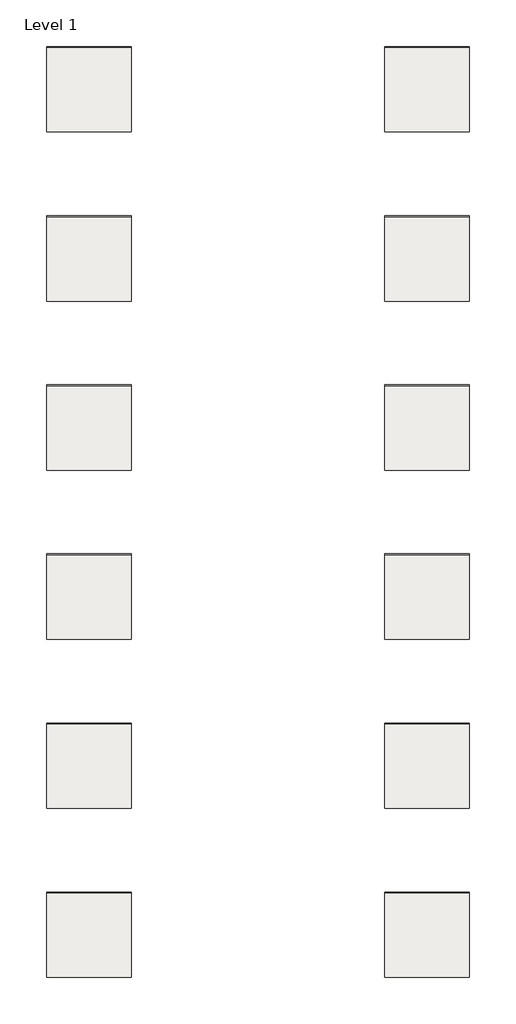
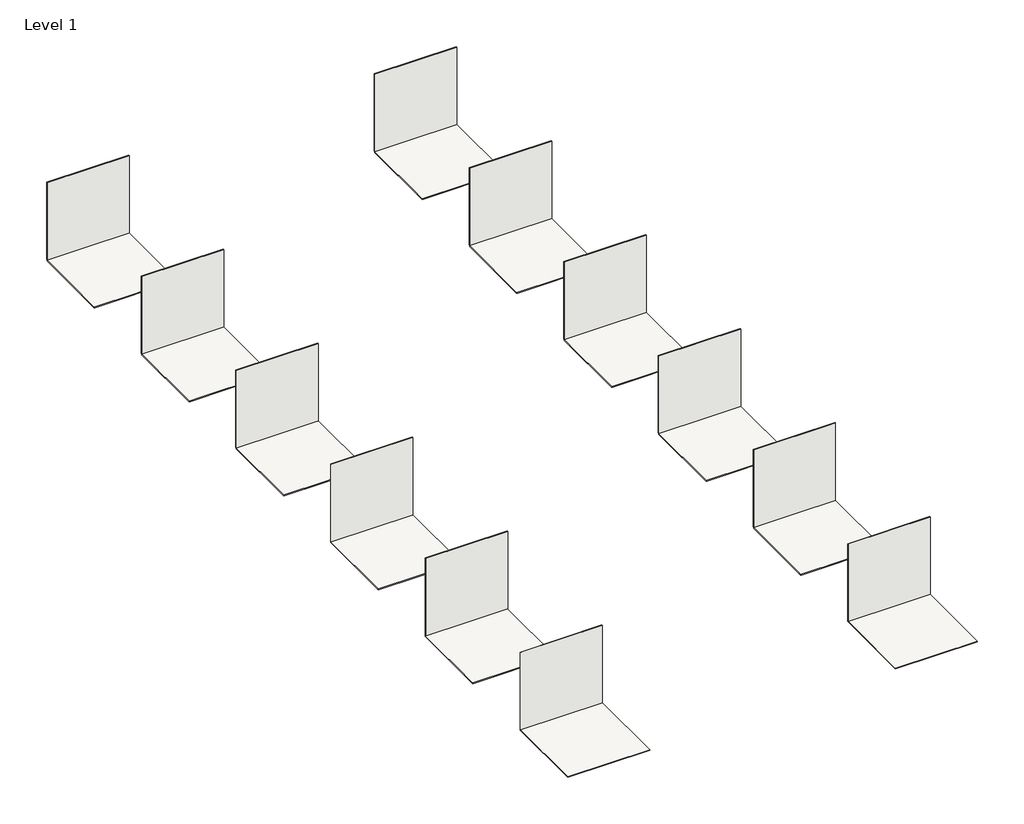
# One storey: 24 coverings.
"""IFC4 building model written with IfcOpenShell, lengths in millimetres."""

from ifc_helpers import new_model, si_unit, frame, origin, origin_with_axes, place, context, project, spatial, polyline, outline, extrude, element, save

model = new_model("IFC4")

# Units and contexts
model_context = context("Model", 3, world=origin())
ifc_project = project(units=[si_unit("LENGTHUNIT", "METRE", prefix="MILLI")], contexts=[model_context])

# Site, building, storey
site = spatial("IfcSite", under=ifc_project)
building = spatial("IfcBuilding", under=site)
storey = spatial("IfcBuildingStorey", under=building, Name="Level 1", Elevation=0.0)

# Coverings
placement = place(None, origin())
element("IfcCovering", 1, ObjectType="REVIGRES-GRIGIO_DAMASCO-BASE-44.35x88.9-POL", at=placement, inside=storey, context=model_context, shape_type="SweptSolid", body=[
    extrude(outline(polyline([(-16268.907908, -497.9865267), (-15268.907908, -497.9865267), (-15268.907908, -508.4865267), (-16268.907908, -508.4865267), (-16268.907908, -497.9865267)])), origin_with_axes(), (0.0, 0.0, 1.0), 1000.0),
])
element("IfcCovering", 2, ObjectType="REVIGRES-GRIGIO_DAMASCO-BASE-44.35x88.9-POL", at=placement, inside=storey, context=model_context, shape_type="SweptSolid", body=[
    extrude(outline(polyline([(-16268.907908, -508.4865267), (-15268.907908, -508.4865267), (-15268.907908, -1508.4865267), (-16268.907908, -1508.4865267), (-16268.907908, -508.4865267)])), frame((0.0, 0.0, -10.5), z_axis=(0.0, 0.0, 1.0), x_axis=(1.0, 0.0, 0.0)), (0.0, 0.0, 1.0), 10.5),
])
element("IfcCovering", 3, ObjectType="REVIGRES-GRIGIO_DAMASCO-BASE-44.35x88.9-MATT_RECT", at=placement, inside=storey, context=model_context, shape_type="SweptSolid", body=[
    extrude(outline(polyline([(-20268.907908, -497.9865267), (-19268.907908, -497.9865267), (-19268.907908, -508.4865267), (-20268.907908, -508.4865267), (-20268.907908, -497.9865267)])), origin_with_axes(), (0.0, 0.0, 1.0), 1000.0),
])
element("IfcCovering", 4, ObjectType="REVIGRES-GRIGIO_DAMASCO-BASE-44.35x88.9-MATT_RECT", at=placement, inside=storey, context=model_context, shape_type="SweptSolid", body=[
    extrude(outline(polyline([(-20268.907908, -508.4865267), (-19268.907908, -508.4865267), (-19268.907908, -1508.4865267), (-20268.907908, -1508.4865267), (-20268.907908, -508.4865267)])), frame((0.0, 0.0, -10.5), z_axis=(0.0, 0.0, 1.0), x_axis=(1.0, 0.0, 0.0)), (0.0, 0.0, 1.0), 10.5),
])
element("IfcCovering", 5, ObjectType="REVIGRES-GRIGIO_DAMASCO-BASE-59.2x59.2-POL", at=placement, inside=storey, context=model_context, shape_type="SweptSolid", body=[
    extrude(outline(polyline([(-16268.907908, -2498.6865267), (-15268.907908, -2498.6865267), (-15268.907908, -2508.4865267), (-16268.907908, -2508.4865267), (-16268.907908, -2498.6865267)])), origin_with_axes(), (0.0, 0.0, 1.0), 1000.0),
])
element("IfcCovering", 6, ObjectType="REVIGRES-GRIGIO_DAMASCO-BASE-59.2x59.2-POL", at=placement, inside=storey, context=model_context, shape_type="SweptSolid", body=[
    extrude(outline(polyline([(-16268.907908, -2508.4865267), (-15268.907908, -2508.4865267), (-15268.907908, -3508.4865267), (-16268.907908, -3508.4865267), (-16268.907908, -2508.4865267)])), frame((0.0, 0.0, -9.8), z_axis=(0.0, 0.0, 1.0), x_axis=(1.0, 0.0, 0.0)), (0.0, 0.0, 1.0), 9.8),
])
element("IfcCovering", 7, ObjectType="REVIGRES-GRIGIO_DAMASCO-BASE-59.2x59.2-MATT_RECT", at=placement, inside=storey, context=model_context, shape_type="SweptSolid", body=[
    extrude(outline(polyline([(-20268.907908, -2498.6865267), (-19268.907908, -2498.6865267), (-19268.907908, -2508.4865267), (-20268.907908, -2508.4865267), (-20268.907908, -2498.6865267)])), origin_with_axes(), (0.0, 0.0, 1.0), 1000.0),
])
element("IfcCovering", 8, ObjectType="REVIGRES-GRIGIO_DAMASCO-BASE-59.2x59.2-MATT_RECT", at=placement, inside=storey, context=model_context, shape_type="SweptSolid", body=[
    extrude(outline(polyline([(-20268.907908, -2508.4865267), (-19268.907908, -2508.4865267), (-19268.907908, -3508.4865267), (-20268.907908, -3508.4865267), (-20268.907908, -2508.4865267)])), frame((0.0, 0.0, -9.8), z_axis=(0.0, 0.0, 1.0), x_axis=(1.0, 0.0, 0.0)), (0.0, 0.0, 1.0), 9.8),
])
element("IfcCovering", 9, ObjectType="REVIGRES-GRIGIO_DAMASCO-BASE-88.9x88.9-POL", at=placement, inside=storey, context=model_context, shape_type="SweptSolid", body=[
    extrude(outline(polyline([(-16268.907908, -4497.9865267), (-15268.907908, -4497.9865267), (-15268.907908, -4508.4865267), (-16268.907908, -4508.4865267), (-16268.907908, -4497.9865267)])), origin_with_axes(), (0.0, 0.0, 1.0), 1000.0),
])
element("IfcCovering", 10, ObjectType="REVIGRES-GRIGIO_DAMASCO-BASE-88.9x88.9-POL", at=placement, inside=storey, context=model_context, shape_type="SweptSolid", body=[
    extrude(outline(polyline([(-16268.907908, -4508.4865267), (-15268.907908, -4508.4865267), (-15268.907908, -5508.4865267), (-16268.907908, -5508.4865267), (-16268.907908, -4508.4865267)])), frame((0.0, 0.0, -10.5), z_axis=(0.0, 0.0, 1.0), x_axis=(1.0, 0.0, 0.0)), (0.0, 0.0, 1.0), 10.5),
])
element("IfcCovering", 11, ObjectType="REVIGRES-GRIGIO_DAMASCO-BASE-88.9x88.9-MATT_RECT", at=placement, inside=storey, context=model_context, shape_type="SweptSolid", body=[
    extrude(outline(polyline([(-20268.907908, -4497.9865267), (-19268.907908, -4497.9865267), (-19268.907908, -4508.4865267), (-20268.907908, -4508.4865267), (-20268.907908, -4497.9865267)])), origin_with_axes(), (0.0, 0.0, 1.0), 1000.0),
])
element("IfcCovering", 12, ObjectType="REVIGRES-GRIGIO_DAMASCO-BASE-88.9x88.9-MATT_RECT", at=placement, inside=storey, context=model_context, shape_type="SweptSolid", body=[
    extrude(outline(polyline([(-20268.907908, -4508.4865267), (-19268.907908, -4508.4865267), (-19268.907908, -5508.4865267), (-20268.907908, -5508.4865267), (-20268.907908, -4508.4865267)])), frame((0.0, 0.0, -10.5), z_axis=(0.0, 0.0, 1.0), x_axis=(1.0, 0.0, 0.0)), (0.0, 0.0, 1.0), 10.5),
])
element("IfcCovering", 13, ObjectType="REVIGRES-GRIGIO_DAMASCO-BASE-59.2x118.6-POL", at=placement, inside=storey, context=model_context, shape_type="SweptSolid", body=[
    extrude(outline(polyline([(-16268.907908, -6498.6865267), (-15268.907908, -6498.6865267), (-15268.907908, -6508.4865267), (-16268.907908, -6508.4865267), (-16268.907908, -6498.6865267)])), origin_with_axes(), (0.0, 0.0, 1.0), 1000.0),
])
element("IfcCovering", 14, ObjectType="REVIGRES-GRIGIO_DAMASCO-BASE-59.2x118.6-POL", at=placement, inside=storey, context=model_context, shape_type="SweptSolid", body=[
    extrude(outline(polyline([(-16268.907908, -6508.4865267), (-15268.907908, -6508.4865267), (-15268.907908, -7508.4865267), (-16268.907908, -7508.4865267), (-16268.907908, -6508.4865267)])), frame((0.0, 0.0, -9.8), z_axis=(0.0, 0.0, 1.0), x_axis=(1.0, 0.0, 0.0)), (0.0, 0.0, 1.0), 9.8),
])
element("IfcCovering", 15, ObjectType="REVIGRES-GRIGIO_DAMASCO-BASE-59.2x118.6-MATT_RECT", at=placement, inside=storey, context=model_context, shape_type="SweptSolid", body=[
    extrude(outline(polyline([(-20268.907908, -6498.6865267), (-19268.907908, -6498.6865267), (-19268.907908, -6508.4865267), (-20268.907908, -6508.4865267), (-20268.907908, -6498.6865267)])), origin_with_axes(), (0.0, 0.0, 1.0), 1000.0),
])
element("IfcCovering", 16, ObjectType="REVIGRES-GRIGIO_DAMASCO-BASE-59.2x118.6-MATT_RECT", at=placement, inside=storey, context=model_context, shape_type="SweptSolid", body=[
    extrude(outline(polyline([(-20268.907908, -6503.5865267), (-19268.907908, -6503.5865267), (-19268.907908, -7508.4865267), (-20268.907908, -7508.4865267), (-20268.907908, -6503.5865267)])), frame((0.0, 0.0, -9.8), z_axis=(0.0, 0.0, 1.0), x_axis=(1.0, 0.0, 0.0)), (0.0, 0.0, 1.0), 9.8),
])
element("IfcCovering", 17, ObjectType="REVIGRES-GRIGIO_DAMASCO-BASE-118.6x277.8-POL", at=placement, inside=storey, context=model_context, shape_type="SweptSolid", body=[
    extrude(outline(polyline([(-16268.907908, -10502.4865267), (-15268.907908, -10502.4865267), (-15268.907908, -10508.4865267), (-16268.907908, -10508.4865267), (-16268.907908, -10502.4865267)])), origin_with_axes(), (0.0, 0.0, 1.0), 1000.0),
])
element("IfcCovering", 18, ObjectType="REVIGRES-GRIGIO_DAMASCO-BASE-118.6x277.8-POL", at=placement, inside=storey, context=model_context, shape_type="SweptSolid", body=[
    extrude(outline(polyline([(-16268.907908, -10508.4865267), (-15268.907908, -10508.4865267), (-15268.907908, -11508.4865267), (-16268.907908, -11508.4865267), (-16268.907908, -10508.4865267)])), frame((0.0, 0.0, -6.0), z_axis=(0.0, 0.0, 1.0), x_axis=(1.0, 0.0, 0.0)), (0.0, 0.0, 1.0), 6.0),
])
element("IfcCovering", 19, ObjectType="REVIGRES-GRIGIO_DAMASCO-BASE-118.6x118.6-POL", at=placement, inside=storey, context=model_context, shape_type="SweptSolid", body=[
    extrude(outline(polyline([(-16268.907908, -8499.4865267), (-15268.907908, -8499.4865267), (-15268.907908, -8508.4865267), (-16268.907908, -8508.4865267), (-16268.907908, -8499.4865267)])), origin_with_axes(), (0.0, 0.0, 1.0), 1000.0),
])
element("IfcCovering", 20, ObjectType="REVIGRES-GRIGIO_DAMASCO-BASE-118.6x118.6-POL", at=placement, inside=storey, context=model_context, shape_type="SweptSolid", body=[
    extrude(outline(polyline([(-16268.907908, -8508.4865267), (-15268.907908, -8508.4865267), (-15268.907908, -9508.4865267), (-16268.907908, -9508.4865267), (-16268.907908, -8508.4865267)])), frame((0.0, 0.0, -9.0), z_axis=(0.0, 0.0, 1.0), x_axis=(1.0, 0.0, 0.0)), (0.0, 0.0, 1.0), 9.0),
])
element("IfcCovering", 21, ObjectType="REVIGRES-GRIGIO_DAMASCO-BASE-118.6x118.6-MATT_RECT", at=placement, inside=storey, context=model_context, shape_type="SweptSolid", body=[
    extrude(outline(polyline([(-20268.907908, -8499.4865267), (-19268.907908, -8499.4865267), (-19268.907908, -8508.4865267), (-20268.907908, -8508.4865267), (-20268.907908, -8499.4865267)])), origin_with_axes(), (0.0, 0.0, 1.0), 1000.0),
])
element("IfcCovering", 22, ObjectType="REVIGRES-GRIGIO_DAMASCO-BASE-118.6x118.6-MATT_RECT", at=placement, inside=storey, context=model_context, shape_type="SweptSolid", body=[
    extrude(outline(polyline([(-20268.907908, -8503.5865267), (-19268.907908, -8503.5865267), (-19268.907908, -9508.4865267), (-20268.907908, -9508.4865267), (-20268.907908, -8503.5865267)])), frame((0.0, 0.0, -9.0), z_axis=(0.0, 0.0, 1.0), x_axis=(1.0, 0.0, 0.0)), (0.0, 0.0, 1.0), 9.0),
])
element("IfcCovering", 23, ObjectType="REVIGRES-GRIGIO_DAMASCO-BASE-118.6x277.8-MATT_RECT", at=placement, inside=storey, context=model_context, shape_type="SweptSolid", body=[
    extrude(outline(polyline([(-20268.907908, -10502.4865267), (-19268.907908, -10502.4865267), (-19268.907908, -10508.4865267), (-20268.907908, -10508.4865267), (-20268.907908, -10502.4865267)])), origin_with_axes(), (0.0, 0.0, 1.0), 1000.0),
])
element("IfcCovering", 24, ObjectType="REVIGRES-GRIGIO_DAMASCO-BASE-118.6x277.8-MATT_RECT", at=placement, inside=storey, context=model_context, shape_type="SweptSolid", body=[
    extrude(outline(polyline([(-20268.907908, -10503.5865267), (-19268.907908, -10503.5865267), (-19268.907908, -11508.4865267), (-20268.907908, -11508.4865267), (-20268.907908, -10503.5865267)])), frame((0.0, 0.0, -6.0), z_axis=(0.0, 0.0, 1.0), x_axis=(1.0, 0.0, 0.0)), (0.0, 0.0, 1.0), 6.0),
])

save(model, "model.ifc")
